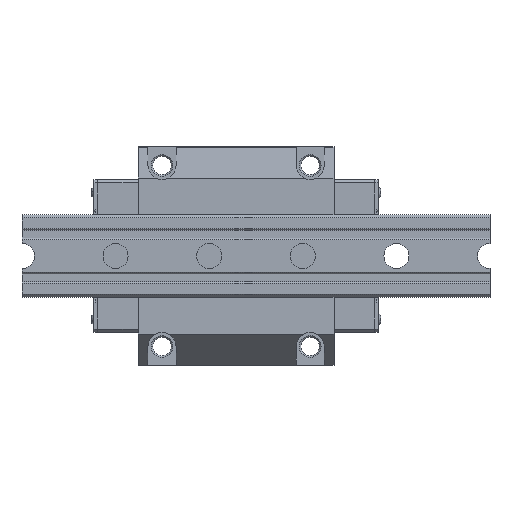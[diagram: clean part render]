
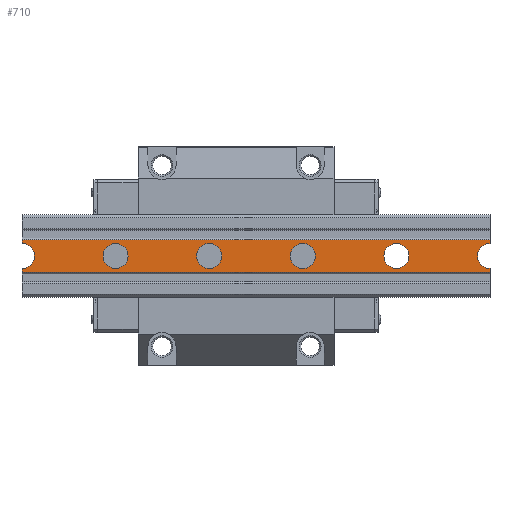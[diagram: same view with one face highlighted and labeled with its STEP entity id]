
A CAD part, front view. The second image highlights one B-rep face of the part: STEP entity #710.
In plain terms, the highlighted planar face has unit normal (0, -1, 0).
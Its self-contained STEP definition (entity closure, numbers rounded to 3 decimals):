
#710 = ADVANCED_FACE( '', ( #1779, #1780, #1781, #1782, #1783 ), #1784, .F. );
#1779 = FACE_BOUND( '', #3362, .T. );
#1780 = FACE_BOUND( '', #3363, .T. );
#1781 = FACE_BOUND( '', #3364, .T. );
#1782 = FACE_BOUND( '', #3365, .T. );
#1783 = FACE_OUTER_BOUND( '', #3366, .T. );
#1784 = PLANE( '', #3367 );
#3362 = EDGE_LOOP( '', ( #5104 ) );
#3363 = EDGE_LOOP( '', ( #5105 ) );
#3364 = EDGE_LOOP( '', ( #5106 ) );
#3365 = EDGE_LOOP( '', ( #5107 ) );
#3366 = EDGE_LOOP( '', ( #5108, #5109, #5110, #5111, #5112, #5113, #5114, #5115 ) );
#3367 = AXIS2_PLACEMENT_3D( '', #5116, #5117, #5118 );
#5104 = ORIENTED_EDGE( '', *, *, #9494, .F. );
#5105 = ORIENTED_EDGE( '', *, *, #9495, .F. );
#5106 = ORIENTED_EDGE( '', *, *, #9496, .F. );
#5107 = ORIENTED_EDGE( '', *, *, #9497, .F. );
#5108 = ORIENTED_EDGE( '', *, *, #9498, .F. );
#5109 = ORIENTED_EDGE( '', *, *, #9499, .F. );
#5110 = ORIENTED_EDGE( '', *, *, #9500, .T. );
#5111 = ORIENTED_EDGE( '', *, *, #9501, .T. );
#5112 = ORIENTED_EDGE( '', *, *, #9502, .F. );
#5113 = ORIENTED_EDGE( '', *, *, #9503, .T. );
#5114 = ORIENTED_EDGE( '', *, *, #9504, .F. );
#5115 = ORIENTED_EDGE( '', *, *, #9505, .F. );
#5116 = CARTESIAN_POINT( '', ( 150., 0., 10.5 ) );
#5117 = DIRECTION( '', ( 0., 1., 0. ) );
#5118 = DIRECTION( '', ( 0., 0., 1. ) );
#9494 = EDGE_CURVE( '', #11320, #11320, #11321, .T. );
#9495 = EDGE_CURVE( '', #11322, #11322, #11323, .T. );
#9496 = EDGE_CURVE( '', #11324, #11324, #11325, .T. );
#9497 = EDGE_CURVE( '', #11326, #11326, #11327, .T. );
#9498 = EDGE_CURVE( '', #11328, #11329, #11330, .T. );
#9499 = EDGE_CURVE( '', #11331, #11328, #11332, .T. );
#9500 = EDGE_CURVE( '', #11331, #11333, #11334, .T. );
#9501 = EDGE_CURVE( '', #11333, #11335, #11336, .T. );
#9502 = EDGE_CURVE( '', #11337, #11335, #11338, .T. );
#9503 = EDGE_CURVE( '', #11337, #11339, #11340, .T. );
#9504 = EDGE_CURVE( '', #11341, #11339, #11342, .T. );
#9505 = EDGE_CURVE( '', #11329, #11341, #11343, .T. );
#11320 = VERTEX_POINT( '', #13969 );
#11321 = CIRCLE( '', #13970, 8. );
#11322 = VERTEX_POINT( '', #13971 );
#11323 = CIRCLE( '', #13972, 8. );
#11324 = VERTEX_POINT( '', #13973 );
#11325 = CIRCLE( '', #13974, 8. );
#11326 = VERTEX_POINT( '', #13975 );
#11327 = CIRCLE( '', #13976, 8. );
#11328 = VERTEX_POINT( '', #13977 );
#11329 = VERTEX_POINT( '', #13978 );
#11330 = CIRCLE( '', #13979, 8. );
#11331 = VERTEX_POINT( '', #13980 );
#11332 = LINE( '', #13981, #13982 );
#11333 = VERTEX_POINT( '', #13983 );
#11334 = LINE( '', #13984, #13985 );
#11335 = VERTEX_POINT( '', #13986 );
#11336 = LINE( '', #13987, #13988 );
#11337 = VERTEX_POINT( '', #13989 );
#11338 = CIRCLE( '', #13990, 8. );
#11339 = VERTEX_POINT( '', #13991 );
#11340 = LINE( '', #13992, #13993 );
#11341 = VERTEX_POINT( '', #13994 );
#11342 = LINE( '', #13995, #13996 );
#11343 = LINE( '', #13997, #13998 );
#13969 = CARTESIAN_POINT( '', ( -90., 0., -8. ) );
#13970 = AXIS2_PLACEMENT_3D( '', #17611, #17612, #17613 );
#13971 = CARTESIAN_POINT( '', ( -30., 0., -8. ) );
#13972 = AXIS2_PLACEMENT_3D( '', #17614, #17615, #17616 );
#13973 = CARTESIAN_POINT( '', ( 30., 0., -8. ) );
#13974 = AXIS2_PLACEMENT_3D( '', #17617, #17618, #17619 );
#13975 = CARTESIAN_POINT( '', ( 90., 0., -8. ) );
#13976 = AXIS2_PLACEMENT_3D( '', #17620, #17621, #17622 );
#13977 = CARTESIAN_POINT( '', ( 150., 0., 8. ) );
#13978 = CARTESIAN_POINT( '', ( 150., 0., -8. ) );
#13979 = AXIS2_PLACEMENT_3D( '', #17623, #17624, #17625 );
#13980 = CARTESIAN_POINT( '', ( 150., 0., 10.5 ) );
#13981 = CARTESIAN_POINT( '', ( 150., 0., 10.5 ) );
#13982 = VECTOR( '', #17626, 1000. );
#13983 = CARTESIAN_POINT( '', ( -150., 0., 10.5 ) );
#13984 = CARTESIAN_POINT( '', ( 150., 0., 10.5 ) );
#13985 = VECTOR( '', #17627, 1000. );
#13986 = CARTESIAN_POINT( '', ( -150., 0., 8. ) );
#13987 = CARTESIAN_POINT( '', ( -150., 0., 10.5 ) );
#13988 = VECTOR( '', #17628, 1000. );
#13989 = CARTESIAN_POINT( '', ( -150., 0., -8. ) );
#13990 = AXIS2_PLACEMENT_3D( '', #17629, #17630, #17631 );
#13991 = CARTESIAN_POINT( '', ( -150., 0., -10.5 ) );
#13992 = CARTESIAN_POINT( '', ( -150., 0., 10.5 ) );
#13993 = VECTOR( '', #17632, 1000. );
#13994 = CARTESIAN_POINT( '', ( 150., 0., -10.5 ) );
#13995 = CARTESIAN_POINT( '', ( 150., 0., -10.5 ) );
#13996 = VECTOR( '', #17633, 1000. );
#13997 = CARTESIAN_POINT( '', ( 150., 0., 10.5 ) );
#13998 = VECTOR( '', #17634, 1000. );
#17611 = CARTESIAN_POINT( '', ( -90., 0., 0. ) );
#17612 = DIRECTION( '', ( 0., -1., 0. ) );
#17613 = DIRECTION( '', ( 0., 0., -1. ) );
#17614 = CARTESIAN_POINT( '', ( -30., 0., 0. ) );
#17615 = DIRECTION( '', ( 0., -1., 0. ) );
#17616 = DIRECTION( '', ( 0., 0., -1. ) );
#17617 = CARTESIAN_POINT( '', ( 30., 0., 0. ) );
#17618 = DIRECTION( '', ( 0., -1., 0. ) );
#17619 = DIRECTION( '', ( 0., 0., -1. ) );
#17620 = CARTESIAN_POINT( '', ( 90., 0., 0. ) );
#17621 = DIRECTION( '', ( 0., -1., 0. ) );
#17622 = DIRECTION( '', ( 0., 0., -1. ) );
#17623 = CARTESIAN_POINT( '', ( 150., 0., 0. ) );
#17624 = DIRECTION( '', ( 0., -1., 0. ) );
#17625 = DIRECTION( '', ( 0., 0., -1. ) );
#17626 = DIRECTION( '', ( 0., 0., -1. ) );
#17627 = DIRECTION( '', ( -1., 0., 0. ) );
#17628 = DIRECTION( '', ( 0., 0., -1. ) );
#17629 = CARTESIAN_POINT( '', ( -150., 0., 0. ) );
#17630 = DIRECTION( '', ( 0., -1., 0. ) );
#17631 = DIRECTION( '', ( 0., 0., -1. ) );
#17632 = DIRECTION( '', ( 0., 0., -1. ) );
#17633 = DIRECTION( '', ( -1., 0., 0. ) );
#17634 = DIRECTION( '', ( 0., 0., -1. ) );
